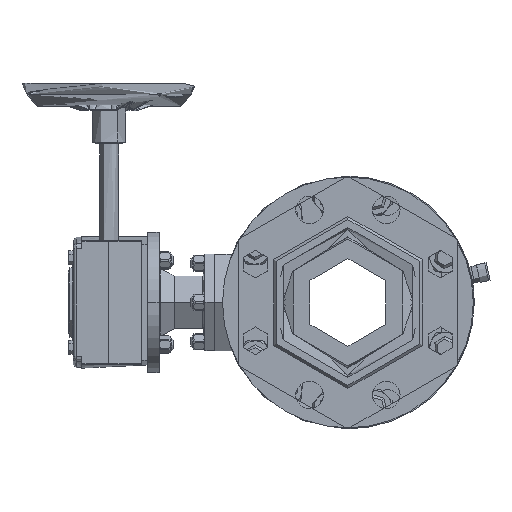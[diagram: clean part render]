
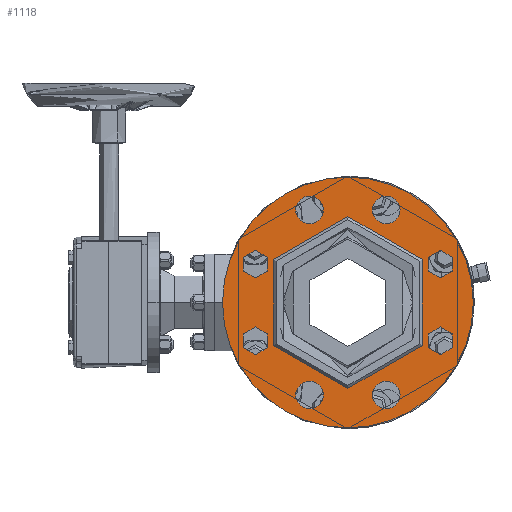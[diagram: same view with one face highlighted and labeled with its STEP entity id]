
A CAD part, left-side view. The second image highlights one B-rep face of the part: STEP entity #1118.
In plain terms, the highlighted planar face has unit normal (-1, 0, 0).
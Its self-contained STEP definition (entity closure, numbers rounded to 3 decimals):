
#1118=ADVANCED_FACE('',(#4348,#4350,#4352,#4354,#4356,#4358,#4360,#4362,#4364,#4366),
#4368,.T.);
#4348=FACE_BOUND('',#4349,.T.);
#4349=EDGE_LOOP('',(#60886,#60887));
#4350=FACE_BOUND('',#4351,.T.);
#4351=EDGE_LOOP('',(#60888,#60889));
#4352=FACE_BOUND('',#4353,.T.);
#4353=EDGE_LOOP('',(#60890,#60891));
#4354=FACE_BOUND('',#4355,.T.);
#4355=EDGE_LOOP('',(#60892,#60893));
#4356=FACE_BOUND('',#4357,.T.);
#4357=EDGE_LOOP('',(#60894,#60895));
#4358=FACE_BOUND('',#4359,.T.);
#4359=EDGE_LOOP('',(#60896,#60897));
#4360=FACE_BOUND('',#4361,.T.);
#4361=EDGE_LOOP('',(#60898,#60899));
#4362=FACE_BOUND('',#4363,.T.);
#4363=EDGE_LOOP('',(#60900,#60901));
#4364=FACE_BOUND('',#4365,.T.);
#4365=EDGE_LOOP('',(#60902,#60903));
#4366=FACE_OUTER_BOUND('',#4367,.T.);
#4367=EDGE_LOOP('',(#60904,#60905));
#4368=PLANE('',#4369);
#4369=AXIS2_PLACEMENT_3D('',#4370,#4371,#4372);
#4370=CARTESIAN_POINT('',(-213.,0.,0.));
#4371=DIRECTION('',(-1.,-0.,0.));
#4372=DIRECTION('',(0.,0.,-1.));
#60886=ORIENTED_EDGE('',*,*,#73368,.F.);
#60887=ORIENTED_EDGE('',*,*,#73369,.F.);
#60888=ORIENTED_EDGE('',*,*,#73370,.F.);
#60889=ORIENTED_EDGE('',*,*,#73371,.F.);
#60890=ORIENTED_EDGE('',*,*,#73372,.F.);
#60891=ORIENTED_EDGE('',*,*,#73373,.F.);
#60892=ORIENTED_EDGE('',*,*,#73374,.F.);
#60893=ORIENTED_EDGE('',*,*,#73375,.F.);
#60894=ORIENTED_EDGE('',*,*,#73376,.F.);
#60895=ORIENTED_EDGE('',*,*,#73377,.F.);
#60896=ORIENTED_EDGE('',*,*,#73378,.F.);
#60897=ORIENTED_EDGE('',*,*,#73379,.F.);
#60898=ORIENTED_EDGE('',*,*,#73380,.F.);
#60899=ORIENTED_EDGE('',*,*,#73381,.F.);
#60900=ORIENTED_EDGE('',*,*,#73382,.F.);
#60901=ORIENTED_EDGE('',*,*,#73383,.F.);
#60902=ORIENTED_EDGE('',*,*,#73384,.F.);
#60903=ORIENTED_EDGE('',*,*,#73385,.F.);
#60904=ORIENTED_EDGE('',*,*,#73364,.T.);
#60905=ORIENTED_EDGE('',*,*,#73366,.T.);
#73364=EDGE_CURVE('',#80047,#80045,#80048,.T.);
#73366=EDGE_CURVE('',#80045,#80047,#80050,.T.);
#73368=EDGE_CURVE('',#80052,#80053,#80054,.T.);
#73369=EDGE_CURVE('',#80053,#80052,#80055,.T.);
#73370=EDGE_CURVE('',#80056,#80057,#80058,.T.);
#73371=EDGE_CURVE('',#80057,#80056,#80059,.T.);
#73372=EDGE_CURVE('',#80060,#80061,#80062,.T.);
#73373=EDGE_CURVE('',#80061,#80060,#80063,.T.);
#73374=EDGE_CURVE('',#80064,#80065,#80066,.T.);
#73375=EDGE_CURVE('',#80065,#80064,#80067,.T.);
#73376=EDGE_CURVE('',#80068,#80069,#80070,.T.);
#73377=EDGE_CURVE('',#80069,#80068,#80071,.T.);
#73378=EDGE_CURVE('',#80072,#80073,#80074,.T.);
#73379=EDGE_CURVE('',#80073,#80072,#80075,.T.);
#73380=EDGE_CURVE('',#80076,#80077,#80078,.T.);
#73381=EDGE_CURVE('',#80077,#80076,#80079,.T.);
#73382=EDGE_CURVE('',#80080,#80081,#80082,.T.);
#73383=EDGE_CURVE('',#80081,#80080,#80083,.T.);
#73384=EDGE_CURVE('',#80084,#80085,#80086,.T.);
#73385=EDGE_CURVE('',#80085,#80084,#80087,.T.);
#80045=VERTEX_POINT('',#91345);
#80047=VERTEX_POINT('',#91349);
#80048=CIRCLE('',#91350,131.5);
#80050=CIRCLE('',#91357,131.5);
#80052=VERTEX_POINT('',#91365);
#80053=VERTEX_POINT('',#91366);
#80054=CIRCLE('',#91367,90.052);
#80055=CIRCLE('',#91371,90.052);
#80056=VERTEX_POINT('',#91375);
#80057=VERTEX_POINT('',#91376);
#80058=CIRCLE('',#91377,14.5);
#80059=CIRCLE('',#91381,14.5);
#80060=VERTEX_POINT('',#91385);
#80061=VERTEX_POINT('',#91386);
#80062=CIRCLE('',#91387,14.5);
#80063=CIRCLE('',#91391,14.5);
#80064=VERTEX_POINT('',#91395);
#80065=VERTEX_POINT('',#91396);
#80066=CIRCLE('',#91397,14.5);
#80067=CIRCLE('',#91401,14.5);
#80068=VERTEX_POINT('',#91405);
#80069=VERTEX_POINT('',#91406);
#80070=CIRCLE('',#91407,14.5);
#80071=CIRCLE('',#91411,14.5);
#80072=VERTEX_POINT('',#91415);
#80073=VERTEX_POINT('',#91416);
#80074=CIRCLE('',#91417,14.5);
#80075=CIRCLE('',#91421,14.5);
#80076=VERTEX_POINT('',#91425);
#80077=VERTEX_POINT('',#91426);
#80078=CIRCLE('',#91427,14.5);
#80079=CIRCLE('',#91431,14.5);
#80080=VERTEX_POINT('',#91435);
#80081=VERTEX_POINT('',#91436);
#80082=CIRCLE('',#91437,14.5);
#80083=CIRCLE('',#91441,14.5);
#80084=VERTEX_POINT('',#91445);
#80085=VERTEX_POINT('',#91446);
#80086=CIRCLE('',#91447,14.5);
#80087=CIRCLE('',#91451,14.5);
#91345=CARTESIAN_POINT('',(-213.,0.,-131.5));
#91349=CARTESIAN_POINT('',(-213.,0.,131.5));
#91350=AXIS2_PLACEMENT_3D('',#91351,#91352,#91353);
#91351=CARTESIAN_POINT('',(-213.,0.,0.));
#91352=DIRECTION('',(-1.,-0.,0.));
#91353=DIRECTION('',(0.,0.,1.));
#91357=AXIS2_PLACEMENT_3D('',#91358,#91359,#91360);
#91358=CARTESIAN_POINT('',(-213.,0.,0.));
#91359=DIRECTION('',(-1.,-0.,0.));
#91360=DIRECTION('',(0.,0.,-1.));
#91365=CARTESIAN_POINT('',(-213.,0.,90.052));
#91366=CARTESIAN_POINT('',(-213.,0.,-90.052));
#91367=AXIS2_PLACEMENT_3D('',#91368,#91369,#91370);
#91368=CARTESIAN_POINT('',(-213.,0.,0.));
#91369=DIRECTION('',(-1.,-0.,0.));
#91370=DIRECTION('',(0.,0.,1.));
#91371=AXIS2_PLACEMENT_3D('',#91372,#91373,#91374);
#91372=CARTESIAN_POINT('',(-213.,0.,0.));
#91373=DIRECTION('',(-1.,-0.,0.));
#91374=DIRECTION('',(0.,0.,-1.));
#91375=CARTESIAN_POINT('',(-213.,97.007,-25.682));
#91376=CARTESIAN_POINT('',(-213.,97.007,-54.682));
#91377=AXIS2_PLACEMENT_3D('',#91378,#91379,#91380);
#91378=CARTESIAN_POINT('',(-213.,97.007,-40.182));
#91379=DIRECTION('',(-1.,-0.,0.));
#91380=DIRECTION('',(0.,0.,1.));
#91381=AXIS2_PLACEMENT_3D('',#91382,#91383,#91384);
#91382=CARTESIAN_POINT('',(-213.,97.007,-40.182));
#91383=DIRECTION('',(-1.,-0.,0.));
#91384=DIRECTION('',(0.,0.,-1.));
#91385=CARTESIAN_POINT('',(-213.,40.182,-82.507));
#91386=CARTESIAN_POINT('',(-213.,40.182,-111.507));
#91387=AXIS2_PLACEMENT_3D('',#91388,#91389,#91390);
#91388=CARTESIAN_POINT('',(-213.,40.182,-97.007));
#91389=DIRECTION('',(-1.,-0.,0.));
#91390=DIRECTION('',(0.,0.,1.));
#91391=AXIS2_PLACEMENT_3D('',#91392,#91393,#91394);
#91392=CARTESIAN_POINT('',(-213.,40.182,-97.007));
#91393=DIRECTION('',(-1.,-0.,0.));
#91394=DIRECTION('',(0.,0.,-1.));
#91395=CARTESIAN_POINT('',(-213.,-40.182,-82.507));
#91396=CARTESIAN_POINT('',(-213.,-40.182,-111.507));
#91397=AXIS2_PLACEMENT_3D('',#91398,#91399,#91400);
#91398=CARTESIAN_POINT('',(-213.,-40.182,-97.007));
#91399=DIRECTION('',(-1.,-0.,0.));
#91400=DIRECTION('',(0.,0.,1.));
#91401=AXIS2_PLACEMENT_3D('',#91402,#91403,#91404);
#91402=CARTESIAN_POINT('',(-213.,-40.182,-97.007));
#91403=DIRECTION('',(-1.,-0.,0.));
#91404=DIRECTION('',(0.,0.,-1.));
#91405=CARTESIAN_POINT('',(-213.,-97.007,-25.682));
#91406=CARTESIAN_POINT('',(-213.,-97.007,-54.682));
#91407=AXIS2_PLACEMENT_3D('',#91408,#91409,#91410);
#91408=CARTESIAN_POINT('',(-213.,-97.007,-40.182));
#91409=DIRECTION('',(-1.,-0.,0.));
#91410=DIRECTION('',(0.,0.,1.));
#91411=AXIS2_PLACEMENT_3D('',#91412,#91413,#91414);
#91412=CARTESIAN_POINT('',(-213.,-97.007,-40.182));
#91413=DIRECTION('',(-1.,-0.,0.));
#91414=DIRECTION('',(0.,0.,-1.));
#91415=CARTESIAN_POINT('',(-213.,-97.007,54.682));
#91416=CARTESIAN_POINT('',(-213.,-97.007,25.682));
#91417=AXIS2_PLACEMENT_3D('',#91418,#91419,#91420);
#91418=CARTESIAN_POINT('',(-213.,-97.007,40.182));
#91419=DIRECTION('',(-1.,-0.,0.));
#91420=DIRECTION('',(0.,0.,1.));
#91421=AXIS2_PLACEMENT_3D('',#91422,#91423,#91424);
#91422=CARTESIAN_POINT('',(-213.,-97.007,40.182));
#91423=DIRECTION('',(-1.,-0.,0.));
#91424=DIRECTION('',(0.,0.,-1.));
#91425=CARTESIAN_POINT('',(-213.,-40.182,111.507));
#91426=CARTESIAN_POINT('',(-213.,-40.182,82.507));
#91427=AXIS2_PLACEMENT_3D('',#91428,#91429,#91430);
#91428=CARTESIAN_POINT('',(-213.,-40.182,97.007));
#91429=DIRECTION('',(-1.,-0.,0.));
#91430=DIRECTION('',(0.,0.,1.));
#91431=AXIS2_PLACEMENT_3D('',#91432,#91433,#91434);
#91432=CARTESIAN_POINT('',(-213.,-40.182,97.007));
#91433=DIRECTION('',(-1.,-0.,0.));
#91434=DIRECTION('',(0.,0.,-1.));
#91435=CARTESIAN_POINT('',(-213.,40.182,111.507));
#91436=CARTESIAN_POINT('',(-213.,40.182,82.507));
#91437=AXIS2_PLACEMENT_3D('',#91438,#91439,#91440);
#91438=CARTESIAN_POINT('',(-213.,40.182,97.007));
#91439=DIRECTION('',(-1.,-0.,0.));
#91440=DIRECTION('',(0.,0.,1.));
#91441=AXIS2_PLACEMENT_3D('',#91442,#91443,#91444);
#91442=CARTESIAN_POINT('',(-213.,40.182,97.007));
#91443=DIRECTION('',(-1.,-0.,0.));
#91444=DIRECTION('',(0.,0.,-1.));
#91445=CARTESIAN_POINT('',(-213.,97.007,54.682));
#91446=CARTESIAN_POINT('',(-213.,97.007,25.682));
#91447=AXIS2_PLACEMENT_3D('',#91448,#91449,#91450);
#91448=CARTESIAN_POINT('',(-213.,97.007,40.182));
#91449=DIRECTION('',(-1.,-0.,0.));
#91450=DIRECTION('',(0.,0.,1.));
#91451=AXIS2_PLACEMENT_3D('',#91452,#91453,#91454);
#91452=CARTESIAN_POINT('',(-213.,97.007,40.182));
#91453=DIRECTION('',(-1.,-0.,0.));
#91454=DIRECTION('',(0.,0.,-1.));
